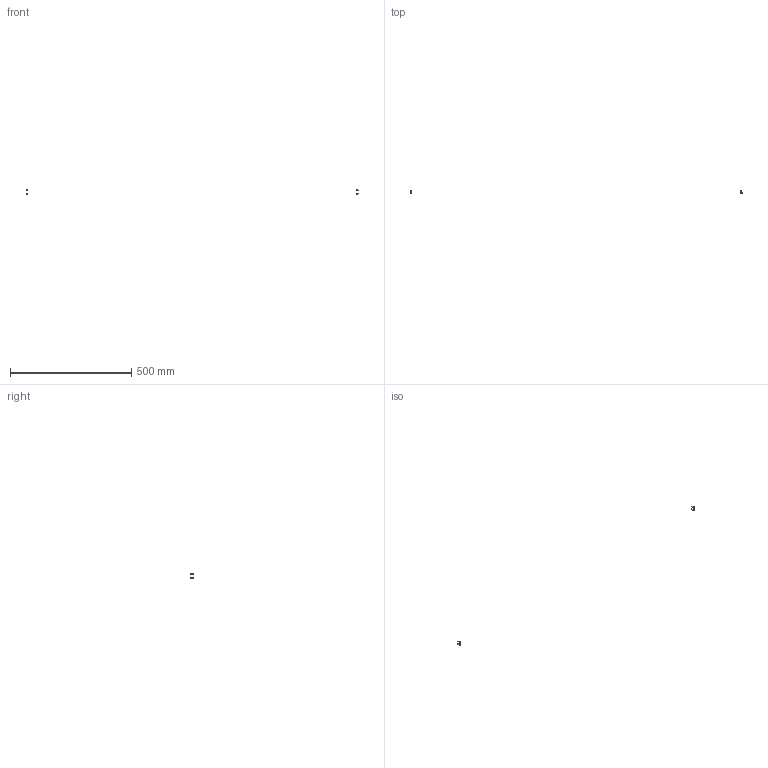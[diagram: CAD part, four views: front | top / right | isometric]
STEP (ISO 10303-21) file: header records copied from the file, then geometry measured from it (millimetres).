
FILE_DESCRIPTION(/* description */ (''),/* implementation_level */ '2;1');
FILE_NAME(/* name */ '8.x-drive#8.9#CB3-10',/* time_stamp */ '2014-12-01T20:18:34+01:00',/* author */ (''),/* organization */ (''),/* preprocessor_version */ 'ST-DEVELOPER v14',/* originating_system */ '',/* authorisation */ '');
FILE_SCHEMA (('AUTOMOTIVE_DESIGN'));
Length unit declared in the file: millimetre
Products named in the file (2): Document; screw DIN912-like, M3x10
Assembly tree (2 placements, depth 2):
  Document
    screw DIN912-like, M3x10  x2
Bounding box: 1369.49 x 13 x 19.52 mm (x, y, z)
Volume: 529.8 mm3; surface area: 807.4 mm2
Topology: 4 solids, 4 shells, 100 faces, 224 edges, 132 vertices
Faces by surface type: plane 60, bspline 40
Entity records: 4125 total; most frequent: CARTESIAN_POINT 1889, B_SPLINE_CURVE_WITH_KNOTS 378, ORIENTED_EDGE 324, PCURVE 324, DEFINITIONAL_REPRESENTATION 324, SURFACE_CURVE 162, EDGE_CURVE 162, VERTEX_POINT 99
